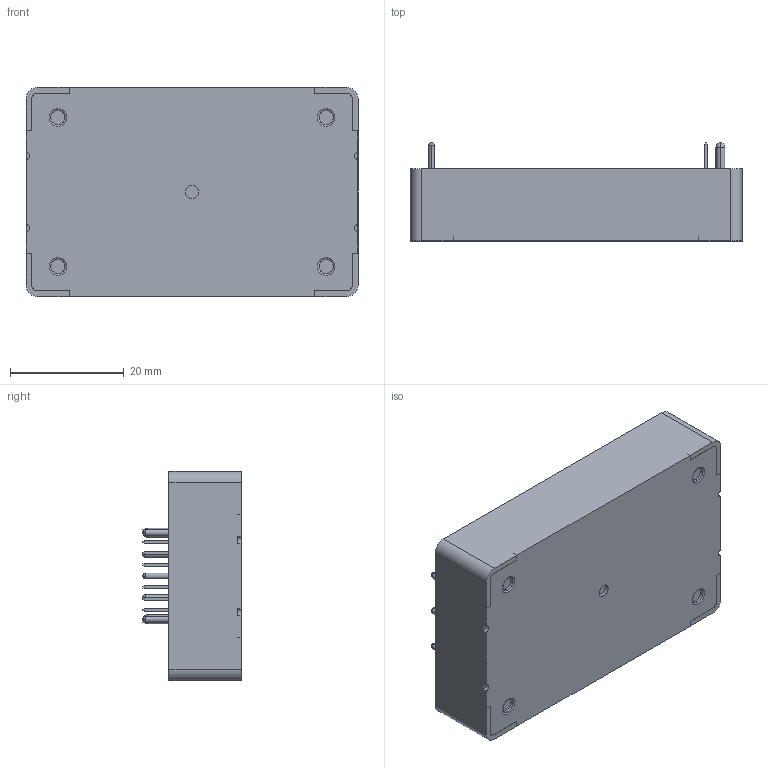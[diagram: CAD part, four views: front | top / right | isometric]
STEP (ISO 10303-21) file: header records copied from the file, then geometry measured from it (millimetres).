
FILE_DESCRIPTION (( 'STEP AP203' ), '1' );
FILE_NAME ('QB_Pmbus_Threaded.STEP', '2024-10-23T10:53:25', ( '' ), ( '' ), 'SwSTEP 2.0', 'SolidWorks 2021', '' );
FILE_SCHEMA (( 'CONFIG_CONTROL_DESIGN' ));
Length unit declared in the file: millimetre
Products named in the file (1): QB_Pmbus_Threaded
Bounding box: 58.4 x 17.3 x 36.8 mm (x, y, z)
Volume: 27275 mm3; surface area: 7032.3 mm2
Topology: 1 solids, 5 shells, 226 faces, 554 edges, 344 vertices
Faces by surface type: plane 144, cylinder 58, sphere 16, cone 8
Entity records: 6523 total; most frequent: DIRECTION 1132, CARTESIAN_POINT 1101, ORIENTED_EDGE 1068, EDGE_CURVE 534, LINE 390, VECTOR 390, AXIS2_PLACEMENT_3D 371, VERTEX_POINT 340
